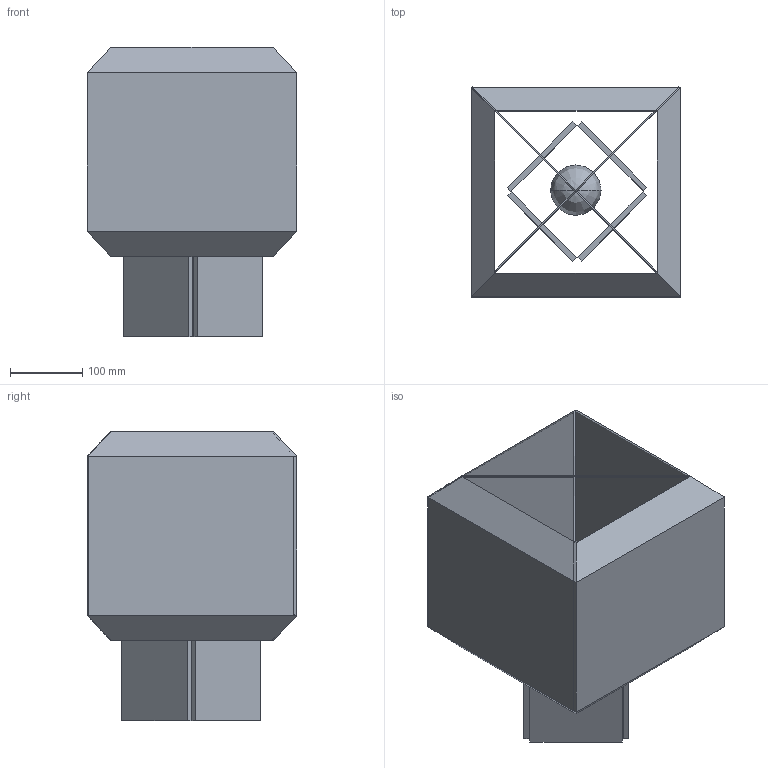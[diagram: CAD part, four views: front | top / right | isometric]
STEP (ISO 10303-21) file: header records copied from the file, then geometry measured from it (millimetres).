
FILE_DESCRIPTION(/* description */ (''),/* implementation_level */ '2;1');
FILE_NAME(/* name */ 'Bali table',/* time_stamp */ '2025-06-25T16:01:10+02:00',/* author */ (''),/* organization */ (''),/* preprocessor_version */ 'ST-DEVELOPER v16.5',/* originating_system */ 'Rhino 7.37',/* authorisation */ '');
FILE_SCHEMA (('AUTOMOTIVE_DESIGN'));
Length unit declared in the file: millimetre
Products named in the file (1): Document
Bounding box: 290 x 290.75 x 401 mm (x, y, z)
Volume: 823406.1 mm3; surface area: 554533.1 mm2
Topology: 9 solids, 11 shells, 91 faces, 220 edges, 142 vertices
Faces by surface type: plane 45, bspline 30, cylinder 16
Entity records: 3597 total; most frequent: CARTESIAN_POINT 2064, ORIENTED_EDGE 424, EDGE_CURVE 218, B_SPLINE_CURVE_WITH_KNOTS 144, VERTEX_POINT 142, ADVANCED_FACE 91, FACE_OUTER_BOUND 91, EDGE_LOOP 91
